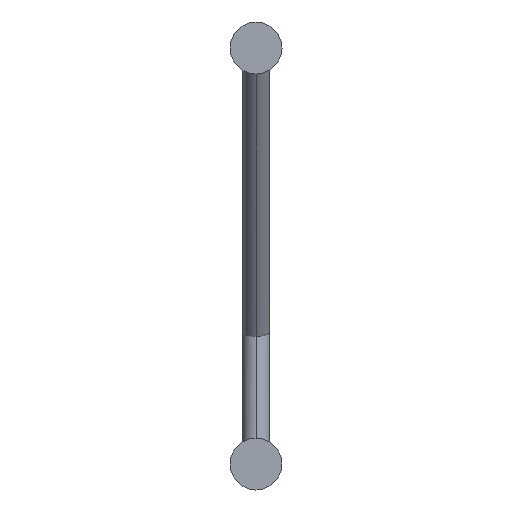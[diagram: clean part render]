
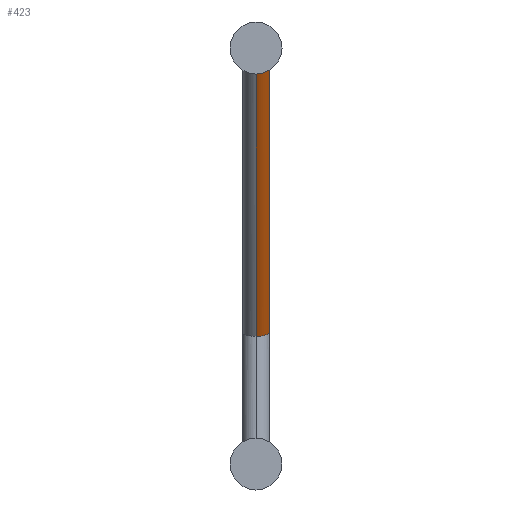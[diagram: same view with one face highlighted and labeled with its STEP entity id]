
A CAD part, front view. The second image highlights one B-rep face of the part: STEP entity #423.
In plain terms, the highlighted cylindrical face has radius 4 mm (diameter 8 mm), a partial arc.
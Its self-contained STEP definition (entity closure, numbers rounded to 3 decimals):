
#4 =( BOUNDED_CURVE ( )  B_SPLINE_CURVE ( 3, ( #383, #386, #385, #384 ),
 .UNSPECIFIED., .F., .F. ) 
 B_SPLINE_CURVE_WITH_KNOTS ( ( 4, 4 ),
 ( 0., 3.142 ),
 .UNSPECIFIED. ) 
 CURVE ( )  GEOMETRIC_REPRESENTATION_ITEM ( )  RATIONAL_B_SPLINE_CURVE ( ( 1., 0.333, 0.333, 1. ) ) 
 REPRESENTATION_ITEM ( '' )  );
#6 =( BOUNDED_CURVE ( )  B_SPLINE_CURVE ( 3, ( #727, #715, #714, #713 ),
 .UNSPECIFIED., .F., .T. ) 
 B_SPLINE_CURVE_WITH_KNOTS ( ( 4, 4 ),
 ( 1.571, 3.142 ),
 .UNSPECIFIED. ) 
 CURVE ( )  GEOMETRIC_REPRESENTATION_ITEM ( )  RATIONAL_B_SPLINE_CURVE ( ( 1., 0.805, 0.805, 1. ) ) 
 REPRESENTATION_ITEM ( '' )  );
#9 =( BOUNDED_CURVE ( )  B_SPLINE_CURVE ( 3, ( #865, #842, #840, #839 ),
 .UNSPECIFIED., .F., .F. ) 
 B_SPLINE_CURVE_WITH_KNOTS ( ( 4, 4 ),
 ( 0., 1.571 ),
 .UNSPECIFIED. ) 
 CURVE ( )  GEOMETRIC_REPRESENTATION_ITEM ( )  RATIONAL_B_SPLINE_CURVE ( ( 1., 0.805, 0.805, 1. ) ) 
 REPRESENTATION_ITEM ( '' )  );
#102 = CARTESIAN_POINT ( 'NONE',  ( 0., 131.75, 38.1 ) ) ;
#103 = DIRECTION ( 'NONE',  ( 0., -0.574, 0.819 ) ) ;
#104 = DIRECTION ( 'NONE',  ( 0., -0.819, -0.574 ) ) ;
#383 = CARTESIAN_POINT ( 'NONE',  ( 0., 127.75, 36.839 ) ) ;
#384 = CARTESIAN_POINT ( 'NONE',  ( 0., 135.75, 39.361 ) ) ;
#385 = CARTESIAN_POINT ( 'NONE',  ( 8., 135.75, 39.361 ) ) ;
#386 = CARTESIAN_POINT ( 'NONE',  ( 8., 127.75, 36.839 ) ) ;
#423 = ADVANCED_FACE ( 'NONE', ( #1040 ), #1039, .T. ) ;
#467 = EDGE_CURVE ( 'NONE', #646, #645, #4, .T. ) ;
#539 = EDGE_CURVE ( 'NONE', #646, #633, #899, .T. ) ;
#547 = EDGE_CURVE ( 'NONE', #655, #628, #9, .T. ) ;
#564 = EDGE_CURVE ( 'NONE', #645, #655, #889, .T. ) ;
#584 = EDGE_CURVE ( 'NONE', #628, #633, #6, .T. ) ;
#586 = AXIS2_PLACEMENT_3D ( 'NONE', #102, #103, #104 ) ;
#628 = VERTEX_POINT ( 'NONE', #697 ) ;
#633 = VERTEX_POINT ( 'NONE', #692 ) ;
#645 = VERTEX_POINT ( 'NONE', #679 ) ;
#646 = VERTEX_POINT ( 'NONE', #678 ) ;
#655 = VERTEX_POINT ( 'NONE', #778 ) ;
#678 = CARTESIAN_POINT ( 'NONE',  ( 0., 127.75, 36.839 ) ) ;
#679 = CARTESIAN_POINT ( 'NONE',  ( 0., 135.75, 39.361 ) ) ;
#692 = CARTESIAN_POINT ( 'NONE',  ( 0., 72.321, 116. ) ) ;
#697 = CARTESIAN_POINT ( 'NONE',  ( 4., 74.403, 120. ) ) ;
#713 = CARTESIAN_POINT ( 'NONE',  ( 0., 72.321, 116. ) ) ;
#714 = CARTESIAN_POINT ( 'NONE',  ( 2.343, 72.321, 116. ) ) ;
#715 = CARTESIAN_POINT ( 'NONE',  ( 4., 73.183, 117.657 ) ) ;
#727 = CARTESIAN_POINT ( 'NONE',  ( 4., 74.403, 120. ) ) ;
#778 = CARTESIAN_POINT ( 'NONE',  ( 0., 76.485, 124. ) ) ;
#824 = DIRECTION ( 'NONE',  ( 0., -0.574, 0.819 ) ) ;
#825 = CARTESIAN_POINT ( 'NONE',  ( 0., 135.027, 40.394 ) ) ;
#839 = CARTESIAN_POINT ( 'NONE',  ( 4., 74.403, 120. ) ) ;
#840 = CARTESIAN_POINT ( 'NONE',  ( 4., 75.623, 122.343 ) ) ;
#842 = CARTESIAN_POINT ( 'NONE',  ( 2.343, 76.485, 124. ) ) ;
#854 = DIRECTION ( 'NONE',  ( 0., -0.574, 0.819 ) ) ;
#856 = CARTESIAN_POINT ( 'NONE',  ( 0., 128.473, 35.806 ) ) ;
#865 = CARTESIAN_POINT ( 'NONE',  ( 0., 76.485, 124. ) ) ;
#889 = LINE ( 'NONE', #825, #895 ) ;
#895 = VECTOR ( 'NONE', #824, 1000. ) ;
#898 = VECTOR ( 'NONE', #854, 1000. ) ;
#899 = LINE ( 'NONE', #856, #898 ) ;
#1039 = CYLINDRICAL_SURFACE ( 'NONE', #586, 4. ) ;
#1040 = FACE_OUTER_BOUND ( 'NONE', #1076, .T. ) ;
#1076 = EDGE_LOOP ( 'NONE', ( #1188, #1183, #1125, #1124, #1128 ) ) ;
#1124 = ORIENTED_EDGE ( 'NONE', *, *, #584, .T. ) ;
#1125 = ORIENTED_EDGE ( 'NONE', *, *, #547, .T. ) ;
#1128 = ORIENTED_EDGE ( 'NONE', *, *, #539, .F. ) ;
#1183 = ORIENTED_EDGE ( 'NONE', *, *, #564, .T. ) ;
#1188 = ORIENTED_EDGE ( 'NONE', *, *, #467, .T. ) ;
